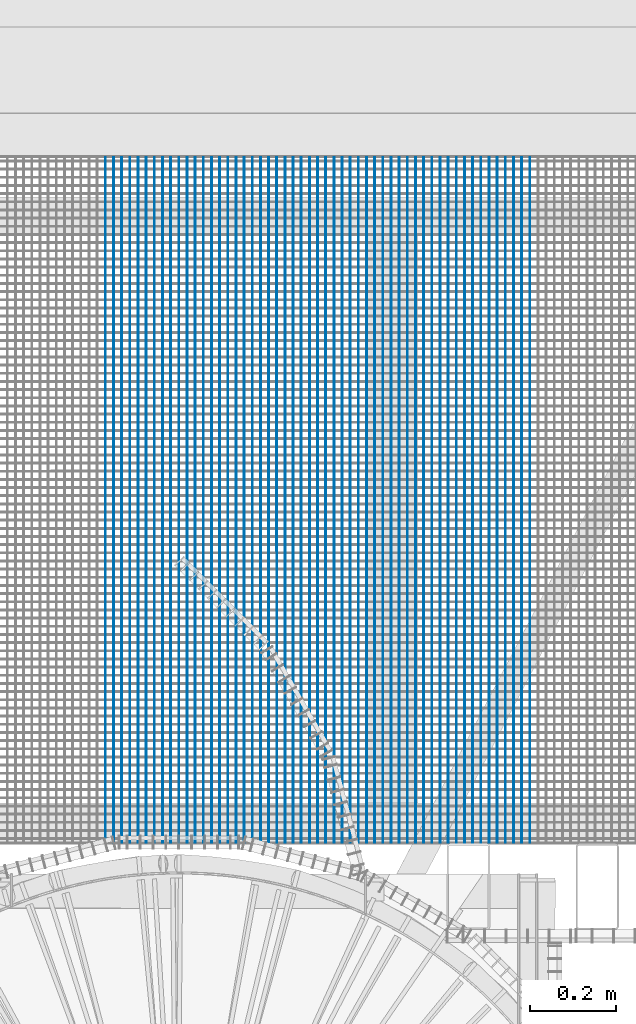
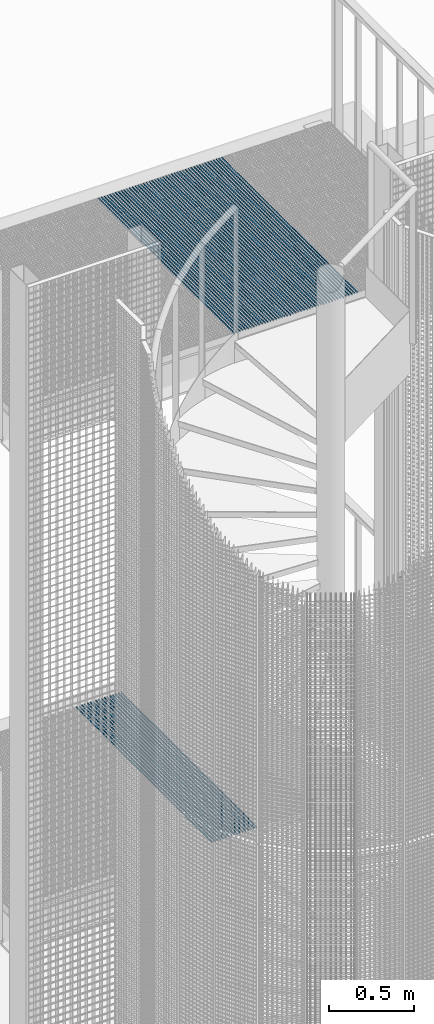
# One storey, part 96 of 1148: 62 beams, 2 elements without a shape of their own.
"""IFC2X3 building model written with IfcOpenShell, lengths in millimetres."""

from ifc_helpers import new_model, si_unit, frame, origin_with_axes, origin_2d_with_axis, place, context, subcontext, project, spatial, rectangle, extrude, material, type_object, element, aggregate, save


model = new_model("IFC2X3")

# Units and contexts
model_context = context("Model", 3, precision=1e-05, world=origin_with_axes())
body_context = subcontext(model_context, "Body", "Model", "MODEL_VIEW")
ifc_project = project(units=[si_unit("LENGTHUNIT", "METRE", prefix="MILLI"), si_unit("AREAUNIT", "SQUARE_METRE"), si_unit("VOLUMEUNIT", "CUBIC_METRE"), si_unit("MASSUNIT", "GRAM", prefix="KILO"), si_unit("TIMEUNIT", "SECOND"), si_unit("PLANEANGLEUNIT", "RADIAN"), si_unit("SOLIDANGLEUNIT", "STERADIAN"), si_unit("THERMODYNAMICTEMPERATUREUNIT", "DEGREE_CELSIUS"), si_unit("LUMINOUSINTENSITYUNIT", "LUMEN")], contexts=[model_context])

# Site, building, storey
site_placement = place(None, origin_with_axes())
site = spatial("IfcSite", under=ifc_project, at=site_placement, Name="Undefined", CompositionType="ELEMENT")
building_placement = place(site_placement, origin_with_axes())
building = spatial("IfcBuilding", under=site, at=building_placement, Name="Undefined", CompositionType="ELEMENT")
storey_placement = place(building_placement, origin_with_axes())
storey = spatial("IfcBuildingStorey", under=building, at=storey_placement, Name="Undefined", CompositionType="ELEMENT", Elevation=0.0)

# Assembly, beams
assembly_1_placement = place(storey_placement, origin_with_axes())
assembly_1 = element("IfcElementAssembly", 1, at=assembly_1_placement, inside=storey, Name="BORDURE", AssemblyPlace="NOTDEFINED", PredefinedType="NOTDEFINED")
ifc_material = material(Name="STEEL/S235JR")
beam_type = type_object("IfcBeamType", Name="PL2*10", PredefinedType="NOTDEFINED")
beam_1_placement = place(assembly_1_placement, frame((21581.1154247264, 1102.00222550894, 17285.0), z_axis=(0.0, 0.0, 1.0), x_axis=(-4.50599999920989e-06, 0.999999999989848, 0.0)))
beam_1 = element("IfcBeam", 2, at=beam_1_placement, type_object=beam_type, material=ifc_material, Name="ENTRETOISE", context=body_context, shape_type="SweptSolid", body=[
    extrude(rectangle(XDim=2.0, YDim=10.0, at=origin_2d_with_axis()), frame((1596.0000000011, -1.35186458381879e-18, -7.27595761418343e-12), z_axis=(-1.0, 0.0, 0.0), x_axis=(0.0, -1.0, 0.0)), (0.0, 0.0, 1.0), 1596.0),
])
beam_2_placement = place(assembly_1_placement, frame((21600.1154247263, 1102.00231902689, 17285.0), z_axis=(0.0, 0.0, 1.0), x_axis=(-4.50599999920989e-06, 0.999999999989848, 0.0)))
beam_2 = element("IfcBeam", 3, at=beam_2_placement, type_object=beam_type, material=ifc_material, Name="ENTRETOISE", context=body_context, shape_type="SweptSolid", body=[
    extrude(rectangle(XDim=2.0, YDim=10.0, at=origin_2d_with_axis()), frame((1596.0000000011, -1.35186458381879e-18, -7.27595761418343e-12), z_axis=(-1.0, 0.0, 0.0), x_axis=(0.0, -1.0, 0.0)), (0.0, 0.0, 1.0), 1596.0),
])
beam_3_placement = place(assembly_1_placement, frame((21619.1154247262, 1102.00241254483, 17285.0), z_axis=(0.0, 0.0, 1.0), x_axis=(-4.50599999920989e-06, 0.999999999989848, 0.0)))
beam_3 = element("IfcBeam", 4, at=beam_3_placement, type_object=beam_type, material=ifc_material, Name="ENTRETOISE", context=body_context, shape_type="SweptSolid", body=[
    extrude(rectangle(XDim=2.0, YDim=10.0, at=origin_2d_with_axis()), frame((1596.0000000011, -1.35186458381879e-18, -7.27595761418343e-12), z_axis=(-1.0, 0.0, 0.0), x_axis=(0.0, -1.0, 0.0)), (0.0, 0.0, 1.0), 1596.0),
])
beam_4_placement = place(assembly_1_placement, frame((21638.1154247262, 1102.00250606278, 17285.0), z_axis=(0.0, 0.0, 1.0), x_axis=(-4.50599999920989e-06, 0.999999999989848, 0.0)))
beam_4 = element("IfcBeam", 5, at=beam_4_placement, type_object=beam_type, material=ifc_material, Name="ENTRETOISE", context=body_context, shape_type="SweptSolid", body=[
    extrude(rectangle(XDim=2.0, YDim=10.0, at=origin_2d_with_axis()), frame((1596.0000000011, -1.35186458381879e-18, -7.27595761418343e-12), z_axis=(-1.0, 0.0, 0.0), x_axis=(0.0, -1.0, 0.0)), (0.0, 0.0, 1.0), 1596.0),
])
beam_5_placement = place(assembly_1_placement, frame((21657.1154247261, 1102.00259958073, 17285.0), z_axis=(0.0, 0.0, 1.0), x_axis=(-4.50599999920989e-06, 0.999999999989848, 0.0)))
beam_5 = element("IfcBeam", 6, at=beam_5_placement, type_object=beam_type, material=ifc_material, Name="ENTRETOISE", context=body_context, shape_type="SweptSolid", body=[
    extrude(rectangle(XDim=2.0, YDim=10.0, at=origin_2d_with_axis()), frame((1596.0000000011, -1.35186458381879e-18, -7.27595761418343e-12), z_axis=(-1.0, 0.0, 0.0), x_axis=(0.0, -1.0, 0.0)), (0.0, 0.0, 1.0), 1596.0),
])
beam_6_placement = place(assembly_1_placement, frame((21676.115424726, 1102.00269309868, 17285.0), z_axis=(0.0, 0.0, 1.0), x_axis=(-4.50599999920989e-06, 0.999999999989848, 0.0)))
beam_6 = element("IfcBeam", 7, at=beam_6_placement, type_object=beam_type, material=ifc_material, Name="ENTRETOISE", context=body_context, shape_type="SweptSolid", body=[
    extrude(rectangle(XDim=2.0, YDim=10.0, at=origin_2d_with_axis()), frame((1596.0000000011, -1.35186458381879e-18, -7.27595761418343e-12), z_axis=(-1.0, 0.0, 0.0), x_axis=(0.0, -1.0, 0.0)), (0.0, 0.0, 1.0), 1596.0),
])
beam_7_placement = place(assembly_1_placement, frame((21695.115424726, 1102.00278661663, 17285.0), z_axis=(0.0, 0.0, 1.0), x_axis=(-4.50599999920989e-06, 0.999999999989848, 0.0)))
beam_7 = element("IfcBeam", 8, at=beam_7_placement, type_object=beam_type, material=ifc_material, Name="ENTRETOISE", context=body_context, shape_type="SweptSolid", body=[
    extrude(rectangle(XDim=2.0, YDim=10.0, at=origin_2d_with_axis()), frame((1596.0000000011, -1.35186458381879e-18, -7.27595761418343e-12), z_axis=(-1.0, 0.0, 0.0), x_axis=(0.0, -1.0, 0.0)), (0.0, 0.0, 1.0), 1596.0),
])
beam_8_placement = place(assembly_1_placement, frame((21714.1154247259, 1102.00288013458, 17285.0), z_axis=(0.0, 0.0, 1.0), x_axis=(-4.50599999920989e-06, 0.999999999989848, 0.0)))
beam_8 = element("IfcBeam", 9, at=beam_8_placement, type_object=beam_type, material=ifc_material, Name="ENTRETOISE", context=body_context, shape_type="SweptSolid", body=[
    extrude(rectangle(XDim=2.0, YDim=10.0, at=origin_2d_with_axis()), frame((1596.0000000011, -1.35186458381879e-18, -7.27595761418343e-12), z_axis=(-1.0, 0.0, 0.0), x_axis=(0.0, -1.0, 0.0)), (0.0, 0.0, 1.0), 1596.0),
])
beam_9_placement = place(assembly_1_placement, frame((21733.1154247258, 1102.00297365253, 17285.0), z_axis=(0.0, 0.0, 1.0), x_axis=(-4.50599999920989e-06, 0.999999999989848, 0.0)))
beam_9 = element("IfcBeam", 10, at=beam_9_placement, type_object=beam_type, material=ifc_material, Name="ENTRETOISE", context=body_context, shape_type="SweptSolid", body=[
    extrude(rectangle(XDim=2.0, YDim=10.0, at=origin_2d_with_axis()), frame((1596.0000000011, -1.35186458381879e-18, -7.27595761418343e-12), z_axis=(-1.0, 0.0, 0.0), x_axis=(0.0, -1.0, 0.0)), (0.0, 0.0, 1.0), 1596.0),
])
beam_10_placement = place(assembly_1_placement, frame((21752.1154247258, 1102.00306717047, 17285.0), z_axis=(0.0, 0.0, 1.0), x_axis=(-4.50599999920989e-06, 0.999999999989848, 0.0)))
beam_10 = element("IfcBeam", 11, at=beam_10_placement, type_object=beam_type, material=ifc_material, Name="ENTRETOISE", context=body_context, shape_type="SweptSolid", body=[
    extrude(rectangle(XDim=2.0, YDim=10.0, at=origin_2d_with_axis()), frame((1596.0000000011, -1.35186458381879e-18, -7.27595761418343e-12), z_axis=(-1.0, 0.0, 0.0), x_axis=(0.0, -1.0, 0.0)), (0.0, 0.0, 1.0), 1596.0),
])
beam_11_placement = place(assembly_1_placement, frame((21771.1154247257, 1102.00316068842, 17285.0), z_axis=(0.0, 0.0, 1.0), x_axis=(-4.50599999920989e-06, 0.999999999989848, 0.0)))
beam_11 = element("IfcBeam", 12, at=beam_11_placement, type_object=beam_type, material=ifc_material, Name="ENTRETOISE", context=body_context, shape_type="SweptSolid", body=[
    extrude(rectangle(XDim=2.0, YDim=10.0, at=origin_2d_with_axis()), frame((1596.0000000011, -1.35186458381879e-18, -7.27595761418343e-12), z_axis=(-1.0, 0.0, 0.0), x_axis=(0.0, -1.0, 0.0)), (0.0, 0.0, 1.0), 1596.0),
])
beam_12_placement = place(assembly_1_placement, frame((21790.1154247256, 1102.00325420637, 17285.0), z_axis=(0.0, 0.0, 1.0), x_axis=(-4.50599999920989e-06, 0.999999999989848, 0.0)))
beam_12 = element("IfcBeam", 13, at=beam_12_placement, type_object=beam_type, material=ifc_material, Name="ENTRETOISE", context=body_context, shape_type="SweptSolid", body=[
    extrude(rectangle(XDim=2.0, YDim=10.0, at=origin_2d_with_axis()), frame((1596.0000000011, -1.35186458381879e-18, -7.27595761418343e-12), z_axis=(-1.0, 0.0, 0.0), x_axis=(0.0, -1.0, 0.0)), (0.0, 0.0, 1.0), 1596.0),
])
beam_13_placement = place(assembly_1_placement, frame((21809.1154247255, 1102.00334772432, 17285.0), z_axis=(0.0, 0.0, 1.0), x_axis=(-4.50599999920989e-06, 0.999999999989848, 0.0)))
beam_13 = element("IfcBeam", 14, at=beam_13_placement, type_object=beam_type, material=ifc_material, Name="ENTRETOISE", context=body_context, shape_type="SweptSolid", body=[
    extrude(rectangle(XDim=2.0, YDim=10.0, at=origin_2d_with_axis()), frame((1596.0000000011, -1.35186458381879e-18, -7.27595761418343e-12), z_axis=(-1.0, 0.0, 0.0), x_axis=(0.0, -1.0, 0.0)), (0.0, 0.0, 1.0), 1596.0),
])
beam_14_placement = place(assembly_1_placement, frame((21828.1154247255, 1102.00344124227, 17285.0), z_axis=(0.0, 0.0, 1.0), x_axis=(-4.50599999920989e-06, 0.999999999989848, 0.0)))
beam_14 = element("IfcBeam", 15, at=beam_14_placement, type_object=beam_type, material=ifc_material, Name="ENTRETOISE", context=body_context, shape_type="SweptSolid", body=[
    extrude(rectangle(XDim=2.0, YDim=10.0, at=origin_2d_with_axis()), frame((1596.0000000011, -1.35186458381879e-18, -7.27595761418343e-12), z_axis=(-1.0, 0.0, 0.0), x_axis=(0.0, -1.0, 0.0)), (0.0, 0.0, 1.0), 1596.0),
])
beam_15_placement = place(assembly_1_placement, frame((21847.1154247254, 1102.00353476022, 17285.0), z_axis=(0.0, 0.0, 1.0), x_axis=(-4.50599999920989e-06, 0.999999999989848, 0.0)))
beam_15 = element("IfcBeam", 16, at=beam_15_placement, type_object=beam_type, material=ifc_material, Name="ENTRETOISE", context=body_context, shape_type="SweptSolid", body=[
    extrude(rectangle(XDim=2.0, YDim=10.0, at=origin_2d_with_axis()), frame((1596.0000000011, -1.35186458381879e-18, -7.27595761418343e-12), z_axis=(-1.0, 0.0, 0.0), x_axis=(0.0, -1.0, 0.0)), (0.0, 0.0, 1.0), 1596.0),
])
beam_16_placement = place(assembly_1_placement, frame((21866.1154247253, 1102.00362827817, 17285.0), z_axis=(0.0, 0.0, 1.0), x_axis=(-4.50599999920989e-06, 0.999999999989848, 0.0)))
beam_16 = element("IfcBeam", 17, at=beam_16_placement, type_object=beam_type, material=ifc_material, Name="ENTRETOISE", context=body_context, shape_type="SweptSolid", body=[
    extrude(rectangle(XDim=2.0, YDim=10.0, at=origin_2d_with_axis()), frame((1596.0000000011, -1.35186458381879e-18, -7.27595761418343e-12), z_axis=(-1.0, 0.0, 0.0), x_axis=(0.0, -1.0, 0.0)), (0.0, 0.0, 1.0), 1596.0),
])
beam_17_placement = place(assembly_1_placement, frame((21885.1154247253, 1102.00372179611, 17285.0), z_axis=(0.0, 0.0, 1.0), x_axis=(-4.50599999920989e-06, 0.999999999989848, 0.0)))
beam_17 = element("IfcBeam", 18, at=beam_17_placement, type_object=beam_type, material=ifc_material, Name="ENTRETOISE", context=body_context, shape_type="SweptSolid", body=[
    extrude(rectangle(XDim=2.0, YDim=10.0, at=origin_2d_with_axis()), frame((1596.0000000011, -1.35186458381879e-18, -7.27595761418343e-12), z_axis=(-1.0, 0.0, 0.0), x_axis=(0.0, -1.0, 0.0)), (0.0, 0.0, 1.0), 1596.0),
])
beam_18_placement = place(assembly_1_placement, frame((21904.1154247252, 1102.00381531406, 17285.0), z_axis=(0.0, 0.0, 1.0), x_axis=(-4.50599999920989e-06, 0.999999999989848, 0.0)))
beam_18 = element("IfcBeam", 19, at=beam_18_placement, type_object=beam_type, material=ifc_material, Name="ENTRETOISE", context=body_context, shape_type="SweptSolid", body=[
    extrude(rectangle(XDim=2.0, YDim=10.0, at=origin_2d_with_axis()), frame((1596.0000000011, -1.35186458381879e-18, -7.27595761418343e-12), z_axis=(-1.0, 0.0, 0.0), x_axis=(0.0, -1.0, 0.0)), (0.0, 0.0, 1.0), 1596.0),
])
beam_19_placement = place(assembly_1_placement, frame((21923.1154247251, 1102.00390883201, 17285.0), z_axis=(0.0, 0.0, 1.0), x_axis=(-4.50599999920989e-06, 0.999999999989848, 0.0)))
beam_19 = element("IfcBeam", 20, at=beam_19_placement, type_object=beam_type, material=ifc_material, Name="ENTRETOISE", context=body_context, shape_type="SweptSolid", body=[
    extrude(rectangle(XDim=2.0, YDim=10.0, at=origin_2d_with_axis()), frame((1596.0000000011, -1.35186458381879e-18, -7.27595761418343e-12), z_axis=(-1.0, 0.0, 0.0), x_axis=(0.0, -1.0, 0.0)), (0.0, 0.0, 1.0), 1596.0),
])
beam_20_placement = place(assembly_1_placement, frame((21942.115424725, 1102.00400234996, 17285.0), z_axis=(0.0, 0.0, 1.0), x_axis=(-4.50599999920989e-06, 0.999999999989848, 0.0)))
beam_20 = element("IfcBeam", 21, at=beam_20_placement, type_object=beam_type, material=ifc_material, Name="ENTRETOISE", context=body_context, shape_type="SweptSolid", body=[
    extrude(rectangle(XDim=2.0, YDim=10.0, at=origin_2d_with_axis()), frame((1596.0000000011, -1.35186458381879e-18, -7.27595761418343e-12), z_axis=(-1.0, 0.0, 0.0), x_axis=(0.0, -1.0, 0.0)), (0.0, 0.0, 1.0), 1596.0),
])
beam_21_placement = place(assembly_1_placement, frame((21961.115424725, 1102.00409586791, 17285.0), z_axis=(0.0, 0.0, 1.0), x_axis=(-4.50599999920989e-06, 0.999999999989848, 0.0)))
beam_21 = element("IfcBeam", 22, at=beam_21_placement, type_object=beam_type, material=ifc_material, Name="ENTRETOISE", context=body_context, shape_type="SweptSolid", body=[
    extrude(rectangle(XDim=2.0, YDim=10.0, at=origin_2d_with_axis()), frame((1596.0000000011, -1.35186458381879e-18, -7.27595761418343e-12), z_axis=(-1.0, 0.0, 0.0), x_axis=(0.0, -1.0, 0.0)), (0.0, 0.0, 1.0), 1596.0),
])
beam_22_placement = place(assembly_1_placement, frame((21980.1154247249, 1102.00418938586, 17285.0), z_axis=(0.0, 0.0, 1.0), x_axis=(-4.50599999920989e-06, 0.999999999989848, 0.0)))
beam_22 = element("IfcBeam", 23, at=beam_22_placement, type_object=beam_type, material=ifc_material, Name="ENTRETOISE", context=body_context, shape_type="SweptSolid", body=[
    extrude(rectangle(XDim=2.0, YDim=10.0, at=origin_2d_with_axis()), frame((1596.0000000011, -1.35186458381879e-18, -7.27595761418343e-12), z_axis=(-1.0, 0.0, 0.0), x_axis=(0.0, -1.0, 0.0)), (0.0, 0.0, 1.0), 1596.0),
])
beam_23_placement = place(assembly_1_placement, frame((21999.1154247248, 1102.0042829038, 17285.0), z_axis=(0.0, 0.0, 1.0), x_axis=(-4.50599999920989e-06, 0.999999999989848, 0.0)))
beam_23 = element("IfcBeam", 24, at=beam_23_placement, type_object=beam_type, material=ifc_material, Name="ENTRETOISE", context=body_context, shape_type="SweptSolid", body=[
    extrude(rectangle(XDim=2.0, YDim=10.0, at=origin_2d_with_axis()), frame((1596.0000000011, -1.35186458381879e-18, -7.27595761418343e-12), z_axis=(-1.0, 0.0, 0.0), x_axis=(0.0, -1.0, 0.0)), (0.0, 0.0, 1.0), 1596.0),
])
beam_24_placement = place(assembly_1_placement, frame((22018.1154247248, 1102.00437642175, 17285.0), z_axis=(0.0, 0.0, 1.0), x_axis=(-4.50599999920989e-06, 0.999999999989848, 0.0)))
beam_24 = element("IfcBeam", 25, at=beam_24_placement, type_object=beam_type, material=ifc_material, Name="ENTRETOISE", context=body_context, shape_type="SweptSolid", body=[
    extrude(rectangle(XDim=2.0, YDim=10.0, at=origin_2d_with_axis()), frame((1596.0000000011, -1.35186458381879e-18, -7.27595761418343e-12), z_axis=(-1.0, 0.0, 0.0), x_axis=(0.0, -1.0, 0.0)), (0.0, 0.0, 1.0), 1596.0),
])
beam_25_placement = place(assembly_1_placement, frame((22037.1154247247, 1102.0044699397, 17285.0), z_axis=(0.0, 0.0, 1.0), x_axis=(-4.50599999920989e-06, 0.999999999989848, 0.0)))
beam_25 = element("IfcBeam", 26, at=beam_25_placement, type_object=beam_type, material=ifc_material, Name="ENTRETOISE", context=body_context, shape_type="SweptSolid", body=[
    extrude(rectangle(XDim=2.0, YDim=10.0, at=origin_2d_with_axis()), frame((1596.0000000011, -1.35186458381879e-18, -7.27595761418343e-12), z_axis=(-1.0, 0.0, 0.0), x_axis=(0.0, -1.0, 0.0)), (0.0, 0.0, 1.0), 1596.0),
])
beam_26_placement = place(assembly_1_placement, frame((22056.1154247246, 1102.00456345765, 17285.0), z_axis=(0.0, 0.0, 1.0), x_axis=(-4.50599999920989e-06, 0.999999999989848, 0.0)))
beam_26 = element("IfcBeam", 27, at=beam_26_placement, type_object=beam_type, material=ifc_material, Name="ENTRETOISE", context=body_context, shape_type="SweptSolid", body=[
    extrude(rectangle(XDim=2.0, YDim=10.0, at=origin_2d_with_axis()), frame((1596.0000000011, -1.35186458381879e-18, -7.27595761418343e-12), z_axis=(-1.0, 0.0, 0.0), x_axis=(0.0, -1.0, 0.0)), (0.0, 0.0, 1.0), 1596.0),
])
beam_27_placement = place(assembly_1_placement, frame((22075.1154247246, 1102.0046569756, 17285.0), z_axis=(0.0, 0.0, 1.0), x_axis=(-4.50599999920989e-06, 0.999999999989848, 0.0)))
beam_27 = element("IfcBeam", 28, at=beam_27_placement, type_object=beam_type, material=ifc_material, Name="ENTRETOISE", context=body_context, shape_type="SweptSolid", body=[
    extrude(rectangle(XDim=2.0, YDim=10.0, at=origin_2d_with_axis()), frame((1596.0000000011, -1.35186458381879e-18, -7.27595761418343e-12), z_axis=(-1.0, 0.0, 0.0), x_axis=(0.0, -1.0, 0.0)), (0.0, 0.0, 1.0), 1596.0),
])
beam_28_placement = place(assembly_1_placement, frame((22094.1154247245, 1102.00475049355, 17285.0), z_axis=(0.0, 0.0, 1.0), x_axis=(-4.50599999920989e-06, 0.999999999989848, 0.0)))
beam_28 = element("IfcBeam", 29, at=beam_28_placement, type_object=beam_type, material=ifc_material, Name="ENTRETOISE", context=body_context, shape_type="SweptSolid", body=[
    extrude(rectangle(XDim=2.0, YDim=10.0, at=origin_2d_with_axis()), frame((1596.0000000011, -1.35186458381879e-18, -7.27595761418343e-12), z_axis=(-1.0, 0.0, 0.0), x_axis=(0.0, -1.0, 0.0)), (0.0, 0.0, 1.0), 1596.0),
])
beam_29_placement = place(assembly_1_placement, frame((22113.1154247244, 1102.0048440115, 17285.0), z_axis=(0.0, 0.0, 1.0), x_axis=(-4.50599999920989e-06, 0.999999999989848, 0.0)))
beam_29 = element("IfcBeam", 30, at=beam_29_placement, type_object=beam_type, material=ifc_material, Name="ENTRETOISE", context=body_context, shape_type="SweptSolid", body=[
    extrude(rectangle(XDim=2.0, YDim=10.0, at=origin_2d_with_axis()), frame((1596.0000000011, -1.35186458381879e-18, -7.27595761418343e-12), z_axis=(-1.0, 0.0, 0.0), x_axis=(0.0, -1.0, 0.0)), (0.0, 0.0, 1.0), 1596.0),
])
beam_30_placement = place(assembly_1_placement, frame((22132.1154247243, 1102.00493752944, 17285.0), z_axis=(0.0, 0.0, 1.0), x_axis=(-4.50599999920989e-06, 0.999999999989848, 0.0)))
beam_30 = element("IfcBeam", 31, at=beam_30_placement, type_object=beam_type, material=ifc_material, Name="ENTRETOISE", context=body_context, shape_type="SweptSolid", body=[
    extrude(rectangle(XDim=2.0, YDim=10.0, at=origin_2d_with_axis()), frame((1596.0000000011, -1.35186458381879e-18, -7.27595761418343e-12), z_axis=(-1.0, 0.0, 0.0), x_axis=(0.0, -1.0, 0.0)), (0.0, 0.0, 1.0), 1596.0),
])
beam_31_placement = place(assembly_1_placement, frame((22151.1154247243, 1102.00503104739, 17285.0), z_axis=(0.0, 0.0, 1.0), x_axis=(-4.50599999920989e-06, 0.999999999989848, 0.0)))
beam_31 = element("IfcBeam", 32, at=beam_31_placement, type_object=beam_type, material=ifc_material, Name="ENTRETOISE", context=body_context, shape_type="SweptSolid", body=[
    extrude(rectangle(XDim=2.0, YDim=10.0, at=origin_2d_with_axis()), frame((1596.0000000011, -1.35186458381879e-18, -7.27595761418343e-12), z_axis=(-1.0, 0.0, 0.0), x_axis=(0.0, -1.0, 0.0)), (0.0, 0.0, 1.0), 1596.0),
])
beam_32_placement = place(assembly_1_placement, frame((22170.1154247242, 1102.00512456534, 17285.0), z_axis=(0.0, 0.0, 1.0), x_axis=(-4.50599999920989e-06, 0.999999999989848, 0.0)))
beam_32 = element("IfcBeam", 33, at=beam_32_placement, type_object=beam_type, material=ifc_material, Name="ENTRETOISE", context=body_context, shape_type="SweptSolid", body=[
    extrude(rectangle(XDim=2.0, YDim=10.0, at=origin_2d_with_axis()), frame((1596.0000000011, -1.35186458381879e-18, -7.27595761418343e-12), z_axis=(-1.0, 0.0, 0.0), x_axis=(0.0, -1.0, 0.0)), (0.0, 0.0, 1.0), 1596.0),
])
beam_33_placement = place(assembly_1_placement, frame((22189.1154247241, 1102.00521808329, 17285.0), z_axis=(0.0, 0.0, 1.0), x_axis=(-4.50599999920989e-06, 0.999999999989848, 0.0)))
beam_33 = element("IfcBeam", 34, at=beam_33_placement, type_object=beam_type, material=ifc_material, Name="ENTRETOISE", context=body_context, shape_type="SweptSolid", body=[
    extrude(rectangle(XDim=2.0, YDim=10.0, at=origin_2d_with_axis()), frame((1596.0000000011, -1.35186458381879e-18, -7.27595761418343e-12), z_axis=(-1.0, 0.0, 0.0), x_axis=(0.0, -1.0, 0.0)), (0.0, 0.0, 1.0), 1596.0),
])
beam_34_placement = place(assembly_1_placement, frame((22208.1154247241, 1102.00531160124, 17285.0), z_axis=(0.0, 0.0, 1.0), x_axis=(-4.50599999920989e-06, 0.999999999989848, 0.0)))
beam_34 = element("IfcBeam", 35, at=beam_34_placement, type_object=beam_type, material=ifc_material, Name="ENTRETOISE", context=body_context, shape_type="SweptSolid", body=[
    extrude(rectangle(XDim=2.0, YDim=10.0, at=origin_2d_with_axis()), frame((1596.0000000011, -1.35186458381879e-18, -7.27595761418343e-12), z_axis=(-1.0, 0.0, 0.0), x_axis=(0.0, -1.0, 0.0)), (0.0, 0.0, 1.0), 1596.0),
])
beam_35_placement = place(assembly_1_placement, frame((22227.115424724, 1102.00540511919, 17285.0), z_axis=(0.0, 0.0, 1.0), x_axis=(-4.50599999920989e-06, 0.999999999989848, 0.0)))
beam_35 = element("IfcBeam", 36, at=beam_35_placement, type_object=beam_type, material=ifc_material, Name="ENTRETOISE", context=body_context, shape_type="SweptSolid", body=[
    extrude(rectangle(XDim=2.0, YDim=10.0, at=origin_2d_with_axis()), frame((1596.0000000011, -1.35186458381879e-18, -7.27595761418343e-12), z_axis=(-1.0, 0.0, 0.0), x_axis=(0.0, -1.0, 0.0)), (0.0, 0.0, 1.0), 1596.0),
])
beam_36_placement = place(assembly_1_placement, frame((22246.1154247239, 1102.00549863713, 17285.0), z_axis=(0.0, 0.0, 1.0), x_axis=(-4.50599999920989e-06, 0.999999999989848, 0.0)))
beam_36 = element("IfcBeam", 37, at=beam_36_placement, type_object=beam_type, material=ifc_material, Name="ENTRETOISE", context=body_context, shape_type="SweptSolid", body=[
    extrude(rectangle(XDim=2.0, YDim=10.0, at=origin_2d_with_axis()), frame((1596.0000000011, -1.35186458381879e-18, -7.27595761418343e-12), z_axis=(-1.0, 0.0, 0.0), x_axis=(0.0, -1.0, 0.0)), (0.0, 0.0, 1.0), 1596.0),
])
beam_37_placement = place(assembly_1_placement, frame((22265.1154247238, 1102.00559215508, 17285.0), z_axis=(0.0, 0.0, 1.0), x_axis=(-4.50599999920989e-06, 0.999999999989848, 0.0)))
beam_37 = element("IfcBeam", 38, at=beam_37_placement, type_object=beam_type, material=ifc_material, Name="ENTRETOISE", context=body_context, shape_type="SweptSolid", body=[
    extrude(rectangle(XDim=2.0, YDim=10.0, at=origin_2d_with_axis()), frame((1596.0000000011, -1.35186458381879e-18, -7.27595761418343e-12), z_axis=(-1.0, 0.0, 0.0), x_axis=(0.0, -1.0, 0.0)), (0.0, 0.0, 1.0), 1596.0),
])
beam_38_placement = place(assembly_1_placement, frame((22284.1154247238, 1102.00568567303, 17285.0), z_axis=(0.0, 0.0, 1.0), x_axis=(-4.50599999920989e-06, 0.999999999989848, 0.0)))
beam_38 = element("IfcBeam", 39, at=beam_38_placement, type_object=beam_type, material=ifc_material, Name="ENTRETOISE", context=body_context, shape_type="SweptSolid", body=[
    extrude(rectangle(XDim=2.0, YDim=10.0, at=origin_2d_with_axis()), frame((1596.0000000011, -1.35186458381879e-18, -7.27595761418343e-12), z_axis=(-1.0, 0.0, 0.0), x_axis=(0.0, -1.0, 0.0)), (0.0, 0.0, 1.0), 1596.0),
])
beam_39_placement = place(assembly_1_placement, frame((22303.1154247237, 1102.00577919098, 17285.0), z_axis=(0.0, 0.0, 1.0), x_axis=(-4.50599999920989e-06, 0.999999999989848, 0.0)))
beam_39 = element("IfcBeam", 40, at=beam_39_placement, type_object=beam_type, material=ifc_material, Name="ENTRETOISE", context=body_context, shape_type="SweptSolid", body=[
    extrude(rectangle(XDim=2.0, YDim=10.0, at=origin_2d_with_axis()), frame((1596.0000000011, -1.35186458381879e-18, -7.27595761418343e-12), z_axis=(-1.0, 0.0, 0.0), x_axis=(0.0, -1.0, 0.0)), (0.0, 0.0, 1.0), 1596.0),
])
beam_40_placement = place(assembly_1_placement, frame((22322.1154247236, 1102.00587270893, 17285.0), z_axis=(0.0, 0.0, 1.0), x_axis=(-4.50599999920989e-06, 0.999999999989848, 0.0)))
beam_40 = element("IfcBeam", 41, at=beam_40_placement, type_object=beam_type, material=ifc_material, Name="ENTRETOISE", context=body_context, shape_type="SweptSolid", body=[
    extrude(rectangle(XDim=2.0, YDim=10.0, at=origin_2d_with_axis()), frame((1596.0000000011, -1.35186458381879e-18, -7.27595761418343e-12), z_axis=(-1.0, 0.0, 0.0), x_axis=(0.0, -1.0, 0.0)), (0.0, 0.0, 1.0), 1596.0),
])
beam_41_placement = place(assembly_1_placement, frame((22341.1154247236, 1102.00596622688, 17285.0), z_axis=(0.0, 0.0, 1.0), x_axis=(-4.50599999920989e-06, 0.999999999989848, 0.0)))
beam_41 = element("IfcBeam", 42, at=beam_41_placement, type_object=beam_type, material=ifc_material, Name="ENTRETOISE", context=body_context, shape_type="SweptSolid", body=[
    extrude(rectangle(XDim=2.0, YDim=10.0, at=origin_2d_with_axis()), frame((1596.0000000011, -1.35186458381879e-18, -7.27595761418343e-12), z_axis=(-1.0, 0.0, 0.0), x_axis=(0.0, -1.0, 0.0)), (0.0, 0.0, 1.0), 1596.0),
])
beam_42_placement = place(assembly_1_placement, frame((22360.1154247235, 1102.00605974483, 17285.0), z_axis=(0.0, 0.0, 1.0), x_axis=(-4.50599999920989e-06, 0.999999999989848, 0.0)))
beam_42 = element("IfcBeam", 43, at=beam_42_placement, type_object=beam_type, material=ifc_material, Name="ENTRETOISE", context=body_context, shape_type="SweptSolid", body=[
    extrude(rectangle(XDim=2.0, YDim=10.0, at=origin_2d_with_axis()), frame((1596.0000000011, -1.35186458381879e-18, -7.27595761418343e-12), z_axis=(-1.0, 0.0, 0.0), x_axis=(0.0, -1.0, 0.0)), (0.0, 0.0, 1.0), 1596.0),
])
beam_43_placement = place(assembly_1_placement, frame((22379.1154247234, 1102.00615326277, 17285.0), z_axis=(0.0, 0.0, 1.0), x_axis=(-4.50599999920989e-06, 0.999999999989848, 0.0)))
beam_43 = element("IfcBeam", 44, at=beam_43_placement, type_object=beam_type, material=ifc_material, Name="ENTRETOISE", context=body_context, shape_type="SweptSolid", body=[
    extrude(rectangle(XDim=2.0, YDim=10.0, at=origin_2d_with_axis()), frame((1596.0000000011, -1.35186458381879e-18, -7.27595761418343e-12), z_axis=(-1.0, 0.0, 0.0), x_axis=(0.0, -1.0, 0.0)), (0.0, 0.0, 1.0), 1596.0),
])
beam_44_placement = place(assembly_1_placement, frame((22398.1154247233, 1102.00624678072, 17285.0), z_axis=(0.0, 0.0, 1.0), x_axis=(-4.50599999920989e-06, 0.999999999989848, 0.0)))
beam_44 = element("IfcBeam", 45, at=beam_44_placement, type_object=beam_type, material=ifc_material, Name="ENTRETOISE", context=body_context, shape_type="SweptSolid", body=[
    extrude(rectangle(XDim=2.0, YDim=10.0, at=origin_2d_with_axis()), frame((1596.0000000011, -1.35186458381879e-18, -7.27595761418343e-12), z_axis=(-1.0, 0.0, 0.0), x_axis=(0.0, -1.0, 0.0)), (0.0, 0.0, 1.0), 1596.0),
])
beam_45_placement = place(assembly_1_placement, frame((22417.1154247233, 1102.00634029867, 17285.0), z_axis=(0.0, 0.0, 1.0), x_axis=(-4.50599999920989e-06, 0.999999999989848, 0.0)))
beam_45 = element("IfcBeam", 46, at=beam_45_placement, type_object=beam_type, material=ifc_material, Name="ENTRETOISE", context=body_context, shape_type="SweptSolid", body=[
    extrude(rectangle(XDim=2.0, YDim=10.0, at=origin_2d_with_axis()), frame((1596.0000000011, -1.35186458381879e-18, -7.27595761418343e-12), z_axis=(-1.0, 0.0, 0.0), x_axis=(0.0, -1.0, 0.0)), (0.0, 0.0, 1.0), 1596.0),
])
aggregate(assembly_1, [beam_1, beam_2, beam_3, beam_4, beam_5, beam_6, beam_7, beam_8, beam_9, beam_10, beam_11, beam_12, beam_13, beam_14, beam_15, beam_16, beam_17, beam_18, beam_19, beam_20, beam_21, beam_22, beam_23, beam_24, beam_25, beam_26, beam_27, beam_28, beam_29, beam_30, beam_31, beam_32, beam_33, beam_34, beam_35, beam_36, beam_37, beam_38, beam_39, beam_40, beam_41, beam_42, beam_43, beam_44, beam_45])

assembly_2_placement = place(storey_placement, origin_with_axes())
assembly_2 = element("IfcElementAssembly", 47, at=assembly_2_placement, inside=storey, Name="BORDURE", AssemblyPlace="NOTDEFINED", PredefinedType="NOTDEFINED")
beam_46_placement = place(assembly_2_placement, frame((21429.115424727, 1102.00147736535, 13685.0), z_axis=(0.0, 0.0, 1.0), x_axis=(-4.50599999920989e-06, 0.999999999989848, 0.0)))
beam_46 = element("IfcBeam", 48, at=beam_46_placement, type_object=beam_type, material=ifc_material, Name="ENTRETOISE", context=body_context, shape_type="SweptSolid", body=[
    extrude(rectangle(XDim=2.0, YDim=10.0, at=origin_2d_with_axis()), frame((1596.0000000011, -1.35186458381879e-18, -7.27595761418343e-12), z_axis=(-1.0, 0.0, 0.0), x_axis=(0.0, -1.0, 0.0)), (0.0, 0.0, 1.0), 1596.0),
])
beam_47_placement = place(assembly_2_placement, frame((21448.1154247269, 1102.0015708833, 13685.0), z_axis=(0.0, 0.0, 1.0), x_axis=(-4.50599999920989e-06, 0.999999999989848, 0.0)))
beam_47 = element("IfcBeam", 49, at=beam_47_placement, type_object=beam_type, material=ifc_material, Name="ENTRETOISE", context=body_context, shape_type="SweptSolid", body=[
    extrude(rectangle(XDim=2.0, YDim=10.0, at=origin_2d_with_axis()), frame((1596.0000000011, -1.35186458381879e-18, -7.27595761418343e-12), z_axis=(-1.0, 0.0, 0.0), x_axis=(0.0, -1.0, 0.0)), (0.0, 0.0, 1.0), 1596.0),
])
beam_48_placement = place(assembly_2_placement, frame((21467.1154247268, 1102.00166440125, 13685.0), z_axis=(0.0, 0.0, 1.0), x_axis=(-4.50599999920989e-06, 0.999999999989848, 0.0)))
beam_48 = element("IfcBeam", 50, at=beam_48_placement, type_object=beam_type, material=ifc_material, Name="ENTRETOISE", context=body_context, shape_type="SweptSolid", body=[
    extrude(rectangle(XDim=2.0, YDim=10.0, at=origin_2d_with_axis()), frame((1596.0000000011, -1.35186458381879e-18, -7.27595761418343e-12), z_axis=(-1.0, 0.0, 0.0), x_axis=(0.0, -1.0, 0.0)), (0.0, 0.0, 1.0), 1596.0),
])
beam_49_placement = place(assembly_2_placement, frame((21486.1154247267, 1102.0017579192, 13685.0), z_axis=(0.0, 0.0, 1.0), x_axis=(-4.50599999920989e-06, 0.999999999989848, 0.0)))
beam_49 = element("IfcBeam", 51, at=beam_49_placement, type_object=beam_type, material=ifc_material, Name="ENTRETOISE", context=body_context, shape_type="SweptSolid", body=[
    extrude(rectangle(XDim=2.0, YDim=10.0, at=origin_2d_with_axis()), frame((1596.0000000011, -1.35186458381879e-18, -7.27595761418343e-12), z_axis=(-1.0, 0.0, 0.0), x_axis=(0.0, -1.0, 0.0)), (0.0, 0.0, 1.0), 1596.0),
])
beam_50_placement = place(assembly_2_placement, frame((21505.1154247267, 1102.00185143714, 13685.0), z_axis=(0.0, 0.0, 1.0), x_axis=(-4.50599999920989e-06, 0.999999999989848, 0.0)))
beam_50 = element("IfcBeam", 52, at=beam_50_placement, type_object=beam_type, material=ifc_material, Name="ENTRETOISE", context=body_context, shape_type="SweptSolid", body=[
    extrude(rectangle(XDim=2.0, YDim=10.0, at=origin_2d_with_axis()), frame((1596.0000000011, -1.35186458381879e-18, -7.27595761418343e-12), z_axis=(-1.0, 0.0, 0.0), x_axis=(0.0, -1.0, 0.0)), (0.0, 0.0, 1.0), 1596.0),
])
beam_51_placement = place(assembly_2_placement, frame((21524.1154247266, 1102.00194495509, 13685.0), z_axis=(0.0, 0.0, 1.0), x_axis=(-4.50599999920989e-06, 0.999999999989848, 0.0)))
beam_51 = element("IfcBeam", 53, at=beam_51_placement, type_object=beam_type, material=ifc_material, Name="ENTRETOISE", context=body_context, shape_type="SweptSolid", body=[
    extrude(rectangle(XDim=2.0, YDim=10.0, at=origin_2d_with_axis()), frame((1596.0000000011, -1.35186458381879e-18, -7.27595761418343e-12), z_axis=(-1.0, 0.0, 0.0), x_axis=(0.0, -1.0, 0.0)), (0.0, 0.0, 1.0), 1596.0),
])
beam_52_placement = place(assembly_2_placement, frame((21543.1154247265, 1102.00203847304, 13685.0), z_axis=(0.0, 0.0, 1.0), x_axis=(-4.50599999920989e-06, 0.999999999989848, 0.0)))
beam_52 = element("IfcBeam", 54, at=beam_52_placement, type_object=beam_type, material=ifc_material, Name="ENTRETOISE", context=body_context, shape_type="SweptSolid", body=[
    extrude(rectangle(XDim=2.0, YDim=10.0, at=origin_2d_with_axis()), frame((1596.0000000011, -1.35186458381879e-18, -7.27595761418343e-12), z_axis=(-1.0, 0.0, 0.0), x_axis=(0.0, -1.0, 0.0)), (0.0, 0.0, 1.0), 1596.0),
])
beam_53_placement = place(assembly_2_placement, frame((21562.1154247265, 1102.00213199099, 13685.0), z_axis=(0.0, 0.0, 1.0), x_axis=(-4.50599999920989e-06, 0.999999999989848, 0.0)))
beam_53 = element("IfcBeam", 55, at=beam_53_placement, type_object=beam_type, material=ifc_material, Name="ENTRETOISE", context=body_context, shape_type="SweptSolid", body=[
    extrude(rectangle(XDim=2.0, YDim=10.0, at=origin_2d_with_axis()), frame((1596.0000000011, -1.35186458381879e-18, -7.27595761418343e-12), z_axis=(-1.0, 0.0, 0.0), x_axis=(0.0, -1.0, 0.0)), (0.0, 0.0, 1.0), 1596.0),
])
beam_54_placement = place(assembly_2_placement, frame((21581.1154247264, 1102.00222550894, 13685.0), z_axis=(0.0, 0.0, 1.0), x_axis=(-4.50599999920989e-06, 0.999999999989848, 0.0)))
beam_54 = element("IfcBeam", 56, at=beam_54_placement, type_object=beam_type, material=ifc_material, Name="ENTRETOISE", context=body_context, shape_type="SweptSolid", body=[
    extrude(rectangle(XDim=2.0, YDim=10.0, at=origin_2d_with_axis()), frame((1596.0000000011, -1.35186458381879e-18, -7.27595761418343e-12), z_axis=(-1.0, 0.0, 0.0), x_axis=(0.0, -1.0, 0.0)), (0.0, 0.0, 1.0), 1596.0),
])
beam_55_placement = place(assembly_2_placement, frame((21600.1154247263, 1102.00231902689, 13685.0), z_axis=(0.0, 0.0, 1.0), x_axis=(-4.50599999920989e-06, 0.999999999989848, 0.0)))
beam_55 = element("IfcBeam", 57, at=beam_55_placement, type_object=beam_type, material=ifc_material, Name="ENTRETOISE", context=body_context, shape_type="SweptSolid", body=[
    extrude(rectangle(XDim=2.0, YDim=10.0, at=origin_2d_with_axis()), frame((1596.0000000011, -1.35186458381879e-18, -7.27595761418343e-12), z_axis=(-1.0, 0.0, 0.0), x_axis=(0.0, -1.0, 0.0)), (0.0, 0.0, 1.0), 1596.0),
])
beam_56_placement = place(assembly_2_placement, frame((21619.1154247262, 1102.00241254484, 13685.0), z_axis=(0.0, 0.0, 1.0), x_axis=(-4.50599999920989e-06, 0.999999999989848, 0.0)))
beam_56 = element("IfcBeam", 58, at=beam_56_placement, type_object=beam_type, material=ifc_material, Name="ENTRETOISE", context=body_context, shape_type="SweptSolid", body=[
    extrude(rectangle(XDim=2.0, YDim=10.0, at=origin_2d_with_axis()), frame((1596.0000000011, -1.35186458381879e-18, -7.27595761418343e-12), z_axis=(-1.0, 0.0, 0.0), x_axis=(0.0, -1.0, 0.0)), (0.0, 0.0, 1.0), 1596.0),
])
beam_57_placement = place(assembly_2_placement, frame((21638.1154247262, 1102.00250606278, 13685.0), z_axis=(0.0, 0.0, 1.0), x_axis=(-4.50599999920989e-06, 0.999999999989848, 0.0)))
beam_57 = element("IfcBeam", 59, at=beam_57_placement, type_object=beam_type, material=ifc_material, Name="ENTRETOISE", context=body_context, shape_type="SweptSolid", body=[
    extrude(rectangle(XDim=2.0, YDim=10.0, at=origin_2d_with_axis()), frame((1596.0000000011, -1.35186458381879e-18, -7.27595761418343e-12), z_axis=(-1.0, 0.0, 0.0), x_axis=(0.0, -1.0, 0.0)), (0.0, 0.0, 1.0), 1596.0),
])
beam_58_placement = place(assembly_2_placement, frame((21657.1154247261, 1102.00259958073, 13685.0), z_axis=(0.0, 0.0, 1.0), x_axis=(-4.50599999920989e-06, 0.999999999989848, 0.0)))
beam_58 = element("IfcBeam", 60, at=beam_58_placement, type_object=beam_type, material=ifc_material, Name="ENTRETOISE", context=body_context, shape_type="SweptSolid", body=[
    extrude(rectangle(XDim=2.0, YDim=10.0, at=origin_2d_with_axis()), frame((1596.0000000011, -1.35186458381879e-18, -7.27595761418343e-12), z_axis=(-1.0, 0.0, 0.0), x_axis=(0.0, -1.0, 0.0)), (0.0, 0.0, 1.0), 1596.0),
])
beam_59_placement = place(assembly_2_placement, frame((21676.115424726, 1102.00269309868, 13685.0), z_axis=(0.0, 0.0, 1.0), x_axis=(-4.50599999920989e-06, 0.999999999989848, 0.0)))
beam_59 = element("IfcBeam", 61, at=beam_59_placement, type_object=beam_type, material=ifc_material, Name="ENTRETOISE", context=body_context, shape_type="SweptSolid", body=[
    extrude(rectangle(XDim=2.0, YDim=10.0, at=origin_2d_with_axis()), frame((1596.0000000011, -1.35186458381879e-18, -7.27595761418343e-12), z_axis=(-1.0, 0.0, 0.0), x_axis=(0.0, -1.0, 0.0)), (0.0, 0.0, 1.0), 1596.0),
])
beam_60_placement = place(assembly_2_placement, frame((21695.115424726, 1102.00278661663, 13685.0), z_axis=(0.0, 0.0, 1.0), x_axis=(-4.50599999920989e-06, 0.999999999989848, 0.0)))
beam_60 = element("IfcBeam", 62, at=beam_60_placement, type_object=beam_type, material=ifc_material, Name="ENTRETOISE", context=body_context, shape_type="SweptSolid", body=[
    extrude(rectangle(XDim=2.0, YDim=10.0, at=origin_2d_with_axis()), frame((1596.0000000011, -1.35186458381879e-18, -7.27595761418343e-12), z_axis=(-1.0, 0.0, 0.0), x_axis=(0.0, -1.0, 0.0)), (0.0, 0.0, 1.0), 1596.0),
])
beam_61_placement = place(assembly_2_placement, frame((21714.1154247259, 1102.00288013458, 13685.0), z_axis=(0.0, 0.0, 1.0), x_axis=(-4.50599999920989e-06, 0.999999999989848, 0.0)))
beam_61 = element("IfcBeam", 63, at=beam_61_placement, type_object=beam_type, material=ifc_material, Name="ENTRETOISE", context=body_context, shape_type="SweptSolid", body=[
    extrude(rectangle(XDim=2.0, YDim=10.0, at=origin_2d_with_axis()), frame((1596.0000000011, -1.35186458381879e-18, -7.27595761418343e-12), z_axis=(-1.0, 0.0, 0.0), x_axis=(0.0, -1.0, 0.0)), (0.0, 0.0, 1.0), 1596.0),
])
beam_62_placement = place(assembly_2_placement, frame((21733.1154247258, 1102.00297365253, 13685.0), z_axis=(0.0, 0.0, 1.0), x_axis=(-4.50599999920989e-06, 0.999999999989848, 0.0)))
beam_62 = element("IfcBeam", 64, at=beam_62_placement, type_object=beam_type, material=ifc_material, Name="ENTRETOISE", context=body_context, shape_type="SweptSolid", body=[
    extrude(rectangle(XDim=2.0, YDim=10.0, at=origin_2d_with_axis()), frame((1596.0000000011, -1.35186458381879e-18, -7.27595761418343e-12), z_axis=(-1.0, 0.0, 0.0), x_axis=(0.0, -1.0, 0.0)), (0.0, 0.0, 1.0), 1596.0),
])
aggregate(assembly_2, [beam_46, beam_47, beam_48, beam_49, beam_50, beam_51, beam_52, beam_53, beam_54, beam_55, beam_56, beam_57, beam_58, beam_59, beam_60, beam_61, beam_62])

save(model, "model.ifc")
